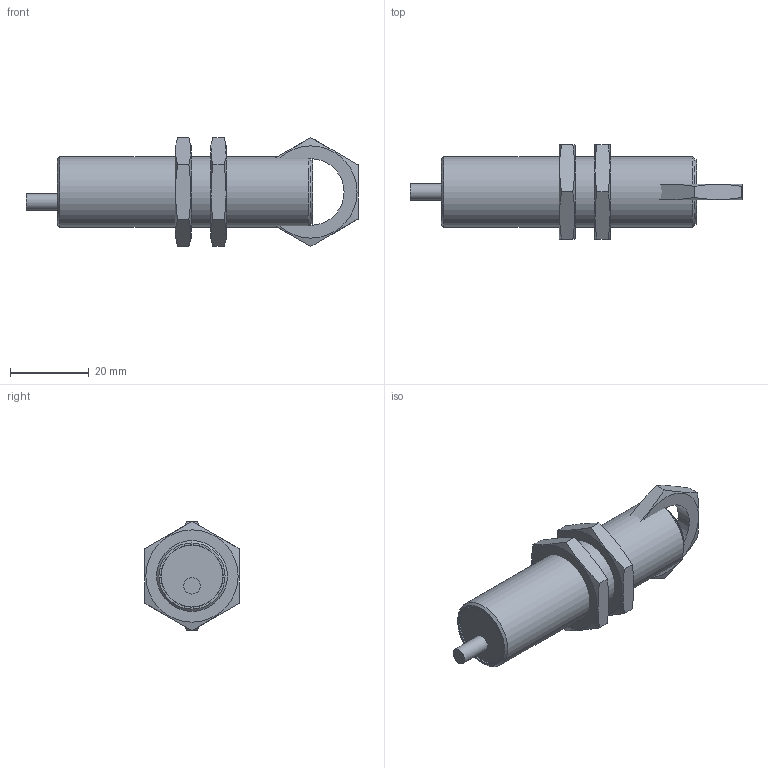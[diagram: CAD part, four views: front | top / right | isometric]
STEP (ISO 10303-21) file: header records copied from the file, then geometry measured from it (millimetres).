
FILE_DESCRIPTION( ( 'Unknown' ), '1' );
FILE_NAME( 'X:/SolidEdge/Models/Dokumentationen/Induktiv/IxRx 18/Vereinfachte Modelle/Neutralformate/IFRM 18xxxA4_L.stp', 'Unknown', ( 'Unknown' ), ( 'Unknown' ), 'PSStep 14.0', 'Unknown', ' ' );
FILE_SCHEMA( ( 'AUTOMOTIVE_DESIGN { 1 0 10303 214 1 1 1 1 }' ) );
Length unit declared in the file: millimetre
Products named in the file (3): Assem1; 101474; IFRM 18xxxA4_L_oA
Bounding box: 84.5 x 24 x 27.71 mm (x, y, z)
Volume: 36334.2 mm3; surface area: 11690.5 mm2
Topology: 5 solids, 5 shells, 75 faces, 180 edges, 121 vertices
Faces by surface type: plane 34, cylinder 27, cone 14
Full cylindrical faces by diameter (mm): 4.2 x2, 16.4 x2, 16.917 x3, 18 x2
Entity records: 1092 total; most frequent: CARTESIAN_POINT 223, DIRECTION 132, ORIENTED_EDGE 102, AXIS2_PLACEMENT_3D 60, EDGE_CURVE 51, EDGE_LOOP 44, VERTEX_POINT 39, FACE_OUTER_BOUND 33
